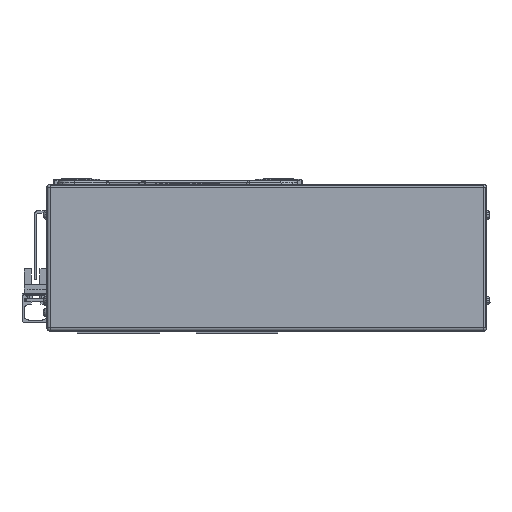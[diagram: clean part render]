
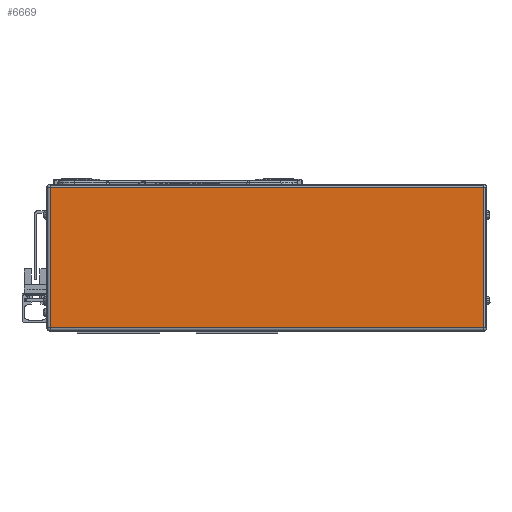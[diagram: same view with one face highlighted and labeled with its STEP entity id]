
A CAD part, left-side view. The second image highlights one B-rep face of the part: STEP entity #6669.
In plain terms, the highlighted planar face has unit normal (-1, 0, 0).
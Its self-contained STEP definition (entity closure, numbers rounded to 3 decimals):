
#6669=ADVANCED_FACE('',(#13963),#13964,.T.);
#13963=FACE_OUTER_BOUND('',#23369,.T.);
#13964=PLANE('',#23370);
#23369=EDGE_LOOP('',(#42171,#42172,#42173,#42174));
#23370=AXIS2_PLACEMENT_3D('',#42175,#42176,#42177);
#42171=ORIENTED_EDGE('',*,*,#56356,.F.);
#42172=ORIENTED_EDGE('',*,*,#55676,.F.);
#42173=ORIENTED_EDGE('',*,*,#56357,.F.);
#42174=ORIENTED_EDGE('',*,*,#51018,.F.);
#42175=CARTESIAN_POINT('',(-45.,-180.5,0.));
#42176=DIRECTION('',(-1.0,0.,0.));
#42177=DIRECTION('',(0.,0.,1.0));
#51018=EDGE_CURVE('',#60639,#61687,#61688,.T.);
#55676=EDGE_CURVE('',#68515,#63262,#68517,.T.);
#56356=EDGE_CURVE('',#63262,#60639,#69339,.T.);
#56357=EDGE_CURVE('',#61687,#68515,#69340,.T.);
#60639=VERTEX_POINT('',#74876);
#61687=VERTEX_POINT('',#76307);
#61688=LINE('',#76308,#76309);
#63262=VERTEX_POINT('',#78373);
#68515=VERTEX_POINT('',#85982);
#68517=LINE('',#85984,#85985);
#69339=LINE('',#87087,#87088);
#69340=LINE('',#87089,#87090);
#74876=CARTESIAN_POINT('',(-45.,-178.5,-41.));
#76307=CARTESIAN_POINT('',(-45.,74.5,-41.));
#76308=CARTESIAN_POINT('',(-45.,-180.5,-41.));
#76309=VECTOR('',#92146,10.0);
#78373=CARTESIAN_POINT('',(-45.,-178.5,41.));
#85982=CARTESIAN_POINT('',(-45.,74.5,41.));
#85984=CARTESIAN_POINT('',(-45.,-180.5,41.));
#85985=VECTOR('',#98111,10.0);
#87087=CARTESIAN_POINT('',(-45.,-178.5,0.));
#87088=VECTOR('',#98783,10.0);
#87089=CARTESIAN_POINT('',(-45.,74.5,0.));
#87090=VECTOR('',#98784,10.0);
#92146=DIRECTION('',(0.,1.0,0.));
#98111=DIRECTION('',(0.,-1.0,0.));
#98783=DIRECTION('',(0.,0.,-1.0));
#98784=DIRECTION('',(0.,0.,1.0));
